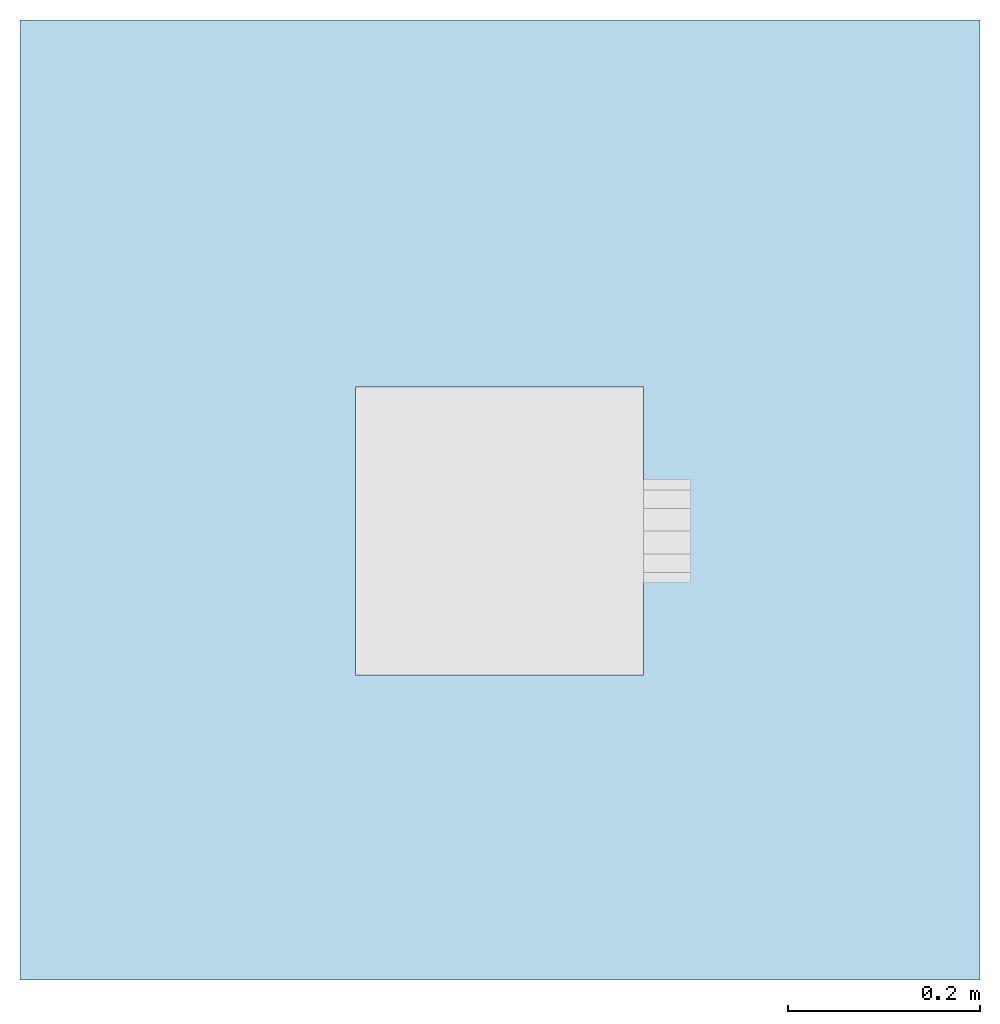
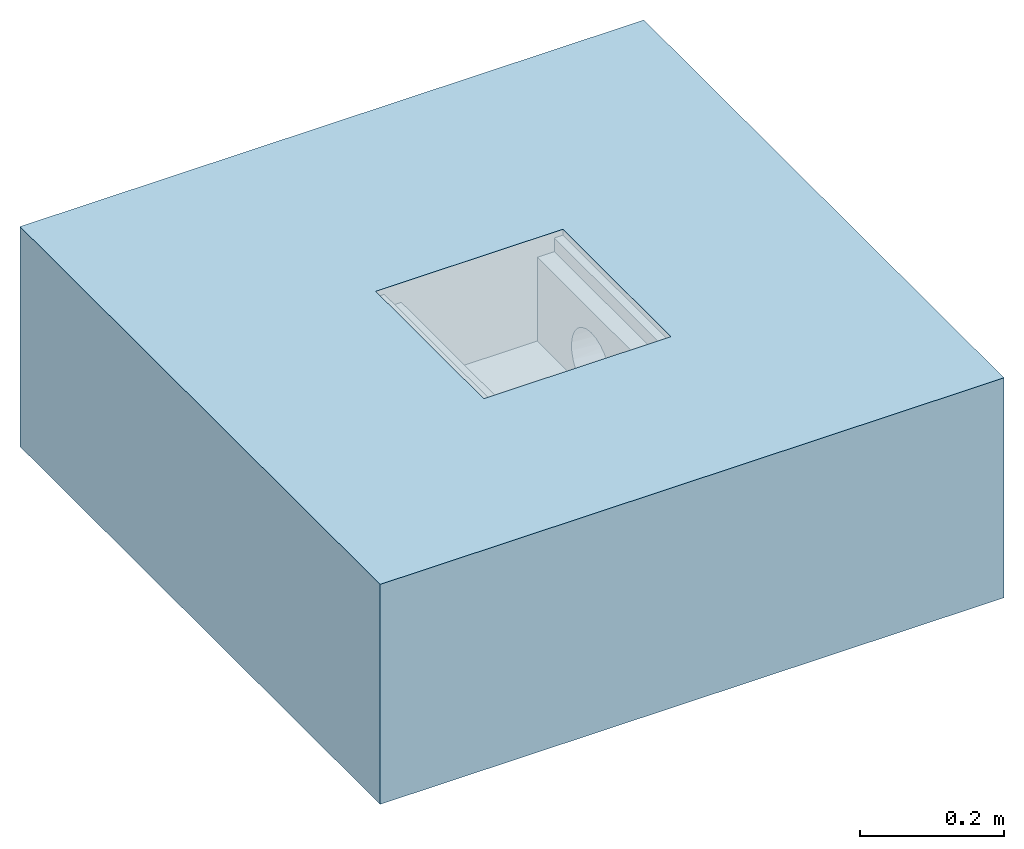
# One storey, incomplete: 1 slab, 1 opening.
"""IFC2X3 building model written with IfcOpenShell, lengths in millimetres."""

from ifc_helpers import new_model, entity, si_unit, converted_unit, derived_unit, direction, frame, frame_2d, origin, place, context, subcontext, project, spatial, rectangle, extrude, faceted_brep, material, layer, layer_set, layer_usage, element, save


model = new_model("IFC2X3")

# Units and contexts
model_context = context("Model", 3, precision=1e-05, world=origin(), true_north=direction((2.0, 6.12303176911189e-17, 1.0)))
context_of_model = context(None, 3, precision=1e-05, world=origin(), true_north=direction((2.0, 6.12303176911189e-17, 1.0)))
body_context = subcontext(model_context, "Body", "Model", "MODEL_VIEW")
ifc_project = project(units=[si_unit("LENGTHUNIT", "METRE", prefix="MILLI"), converted_unit("AREAUNIT", "SQUARE FOOT", entity("IfcRatioMeasure", 0.09290304), si_unit("AREAUNIT", "SQUARE_METRE"), dimensions=[2, 0, 0, 0, 0, 0, 0]), converted_unit("VOLUMEUNIT", "CUBIC FOOT", entity("IfcRatioMeasure", 0.028316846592), si_unit("VOLUMEUNIT", "CUBIC_METRE"), dimensions=[3, 0, 0, 0, 0, 0, 0]), converted_unit("PLANEANGLEUNIT", "DEGREE", entity("IfcRatioMeasure", 0.0174532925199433), si_unit("PLANEANGLEUNIT", "RADIAN"), dimensions=[0, 0, 0, 0, 0, 0, 0]), si_unit("MASSUNIT", "GRAM", prefix="KILO"), si_unit("TIMEUNIT", "SECOND"), si_unit("THERMODYNAMICTEMPERATUREUNIT", "KELVIN"), derived_unit("THERMALTRANSMITTANCEUNIT", [(si_unit("MASSUNIT", "GRAM", prefix="KILO"), 1), (si_unit("THERMODYNAMICTEMPERATUREUNIT", "KELVIN"), -1), (si_unit("TIMEUNIT", "SECOND"), -3)]), derived_unit("VOLUMETRICFLOWRATEUNIT", [(si_unit("LENGTHUNIT", "METRE"), 3), (si_unit("TIMEUNIT", "SECOND"), -1)]), si_unit("POWERUNIT", "WATT")], contexts=[model_context, context_of_model])

# Site, building, storey
site_placement = place(None, origin())
site = spatial("IfcSite", under=ifc_project, at=site_placement, Name="Default", CompositionType="ELEMENT")
building_placement = place(site_placement, origin())
building = spatial("IfcBuilding", under=site, at=building_placement, CompositionType="ELEMENT")
storey_placement = place(building_placement, origin())
storey = spatial("IfcBuildingStorey", under=building, at=storey_placement, Name="Level 1", CompositionType="ELEMENT", Elevation=0.0)

# Slab, opening
ifc_material_1 = material(Name="Plywood, Sheathing")
ifc_layer_1 = layer(ifc_material_1, 68.0)
ifc_material_2 = material(Name="Default Floor")
ifc_layer_2 = layer(ifc_material_2, 304.8)
ifc_layer_set = layer_set([ifc_layer_1, ifc_layer_2], Name="Floor:Generic - 12\"")
ifc_layer_usage = layer_usage(ifc_layer_set, "AXIS3", "POSITIVE", 0.0)
slab_placement = place(storey_placement, frame((-10598.0627721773, 2392.60708548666, -372.8)))
slab = element("IfcSlab", 1, at=slab_placement, inside=storey, material=ifc_layer_usage, Name="Floor:Generic - 12\"", ObjectType="Floor:Generic - 12\"", PredefinedType="FLOOR", context=body_context, shape_type="SweptSolid", body=[
    extrude(rectangle(XDim=1000.0, YDim=1000.0, at=frame_2d((0.0, 0.0), x_axis=(0.0, -1.0))), frame((500.0, 500.0, 372.8), z_axis=(0.0, 0.0, -1.0), x_axis=(-1.0, 0.0, 0.0)), (0.0, 0.0, 1.0), 372.8),
])
opening_placement = place(slab_placement, frame((349.349039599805, 317.523464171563, 191.204838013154)))
element("IfcOpeningElement", 2, at=opening_placement, cuts=slab, ObjectType="Recess", context=body_context, shape_type="Brep", body=[
    faceted_brep([(41.0, 0.0, 148.555497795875), (41.0, 0.0, 6.59516198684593), (259.0, 0.0, 6.59516198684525), (13.7698329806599, 0.0, 148.555497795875), (13.7698329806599, 0.0, 171.595161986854), (0.0, 0.0, 181.595161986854), (0.0, 0.0, 171.595161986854), (300.000002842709, 0.0, 181.595161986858), (259.0, 0.0, 148.555497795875), (286.2808, 0.0, 148.555497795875), (286.2808, 0.0, 171.595161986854), (300.000002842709, 0.0, 171.595161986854), (259.0, 300.0, 148.555497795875), (259.0, 300.0, 6.59516198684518), (41.0, 300.0, 6.59516198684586), (286.2808, 300.0, 148.555497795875), (286.2808, 300.0, 171.595161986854), (300.000002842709, 300.0, 181.595161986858), (300.000002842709, 300.0, 171.595161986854), (13.7698329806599, 300.0, 171.595161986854), (41.0, 300.0, 148.555497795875), (13.7698329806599, 300.0, 148.555497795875), (0.0, 300.0, 171.595161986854), (0.0, 300.0, 181.595161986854), (259.0, 127.087386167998, 6.59516198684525), (259.07112507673, 172.912613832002, 6.59516198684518), (259.0, 99.3737731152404, 35.1016042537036), (259.0, 95.6591057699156, 48.1066352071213), (259.0, 106.14995177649, 23.3963496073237), (259.0, 95.2305861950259, 61.6249914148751), (259.0, 115.577867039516, 13.6987211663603), (259.0, 98.1141281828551, 74.8391795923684), (259.0, 104.135355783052, 86.950100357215), (259.0, 112.930148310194, 97.2253720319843), (259.0, 123.966659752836, 105.04361983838), (259.0, 136.577481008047, 109.932052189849), (259.0, 150.0, 111.595051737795), (259.0, 184.422132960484, 13.6987211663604), (259.0, 193.85004822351, 23.396349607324), (259.0, 200.62622688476, 35.1016042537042), (259.0, 204.340894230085, 48.1066352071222), (259.0, 204.769413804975, 61.624991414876), (259.0, 163.422518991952, 109.93205218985), (259.0, 176.033340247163, 105.04361983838), (259.0, 195.864644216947, 86.9501003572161), (259.0, 201.885871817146, 74.8391795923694), (259.0, 187.069851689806, 97.2253720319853), (348.992125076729, 204.99988975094, 56.5951619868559), (348.992125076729, 135.764981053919, 3.46934803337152), (348.992125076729, 150.0, 1.5952722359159), (348.992125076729, 177.49994487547, 104.226463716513), (348.992125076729, 203.125813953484, 70.8301809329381), (348.992125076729, 197.631301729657, 84.0951068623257), (348.992125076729, 188.890795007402, 95.4859569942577), (348.992125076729, 197.631301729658, 29.0952171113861), (348.992125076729, 177.499944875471, 8.96386025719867), (348.992125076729, 188.890795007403, 17.704366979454), (348.992125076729, 203.125813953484, 42.3601430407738), (348.992125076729, 164.235018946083, 3.46934803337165), (348.992125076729, 164.235018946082, 109.72097594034), (348.992125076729, 150.0, 111.595051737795), (348.992125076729, 135.764981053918, 109.720975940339), (348.992125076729, 111.109204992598, 95.4859569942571), (348.992125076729, 122.50005512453, 104.226463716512), (348.992125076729, 102.368698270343, 84.095106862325), (348.992125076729, 96.8741860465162, 70.8301809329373), (348.992125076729, 102.368698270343, 29.0952171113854), (348.992125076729, 122.50005512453, 8.96386025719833), (348.992125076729, 111.109204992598, 17.7043669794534), (348.992125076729, 96.8741860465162, 42.3601430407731), (348.992125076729, 95.0001102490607, 56.5951619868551), (259.07112507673, 138.260212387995, 2.86281363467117), (259.07112507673, 150.0, 1.59527223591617), (259.07112507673, 161.739787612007, 2.86281363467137)], [[[0, 1, 2]], [[3, 0, 4]], [[5, 6, 4]], [[5, 4, 7]], [[0, 8, 4]], [[2, 8, 0]], [[8, 9, 10]], [[10, 11, 7]], [[10, 7, 4]], [[8, 10, 4]], [[12, 13, 14]], [[15, 12, 16]], [[17, 18, 16]], [[17, 16, 19]], [[12, 19, 16]], [[14, 20, 12]], [[20, 21, 19]], [[19, 22, 23]], [[19, 23, 17]], [[20, 19, 12]], [[1, 24, 2]], [[24, 1, 14]], [[25, 14, 13]], [[14, 25, 24]], [[7, 11, 18]], [[18, 17, 7]], [[5, 7, 23]], [[17, 23, 7]], [[6, 5, 23]], [[23, 22, 6]], [[4, 6, 19]], [[22, 19, 6]], [[1, 0, 20]], [[20, 14, 1]], [[2, 26, 27]], [[26, 2, 28]], [[2, 27, 29]], [[30, 28, 2]], [[24, 30, 2]], [[8, 29, 31]], [[29, 8, 2]], [[8, 31, 32]], [[32, 33, 8]], [[34, 35, 8]], [[33, 34, 8]], [[8, 35, 36]], [[37, 25, 13]], [[38, 37, 13]], [[39, 13, 40]], [[13, 39, 38]], [[41, 40, 13]], [[13, 12, 41]], [[42, 43, 12]], [[36, 42, 12]], [[44, 45, 12]], [[46, 12, 43]], [[12, 46, 44]], [[45, 41, 12]], [[36, 12, 8]], [[11, 10, 18]], [[16, 18, 10]], [[9, 8, 12]], [[12, 15, 9]], [[10, 9, 16]], [[15, 16, 9]], [[3, 4, 21]], [[19, 21, 4]], [[0, 3, 20]], [[21, 20, 3]], [[47, 48, 49]], [[50, 51, 52]], [[48, 47, 51]], [[50, 52, 53]], [[51, 50, 48]], [[54, 55, 56]], [[54, 57, 47]], [[55, 49, 58]], [[55, 54, 47]], [[49, 55, 47]], [[50, 59, 60]], [[48, 50, 61]], [[62, 61, 63]], [[62, 64, 65]], [[61, 62, 48]], [[65, 66, 62]], [[67, 66, 68]], [[66, 67, 48]], [[65, 69, 66]], [[66, 48, 62]], [[70, 69, 65]], [[61, 50, 60]], [[71, 24, 25]], [[72, 25, 73]], [[25, 72, 71]], [[71, 49, 48]], [[67, 24, 48]], [[28, 68, 66]], [[67, 68, 30]], [[26, 66, 69]], [[71, 72, 49]], [[71, 48, 24]], [[67, 30, 24]], [[68, 28, 30]], [[26, 28, 66]], [[69, 27, 26]], [[69, 70, 27]], [[29, 70, 65]], [[64, 31, 65]], [[63, 61, 34]], [[33, 62, 63]], [[32, 64, 62]], [[35, 61, 60]], [[65, 31, 29]], [[64, 32, 31]], [[62, 33, 32]], [[63, 34, 33]], [[35, 34, 61]], [[60, 36, 35]], [[70, 29, 27]], [[42, 60, 59]], [[50, 43, 59]], [[44, 53, 52]], [[50, 53, 46]], [[45, 52, 51]], [[60, 42, 36]], [[59, 43, 42]], [[50, 46, 43]], [[53, 44, 46]], [[45, 44, 52]], [[51, 41, 45]], [[51, 47, 41]], [[40, 47, 57]], [[54, 39, 57]], [[55, 58, 25]], [[37, 56, 55]], [[38, 54, 56]], [[73, 58, 49]], [[54, 38, 39]], [[39, 40, 57]], [[72, 73, 49]], [[37, 55, 25]], [[37, 38, 56]], [[58, 73, 25]], [[47, 40, 41]]]),
])

save(model, "model.ifc")
